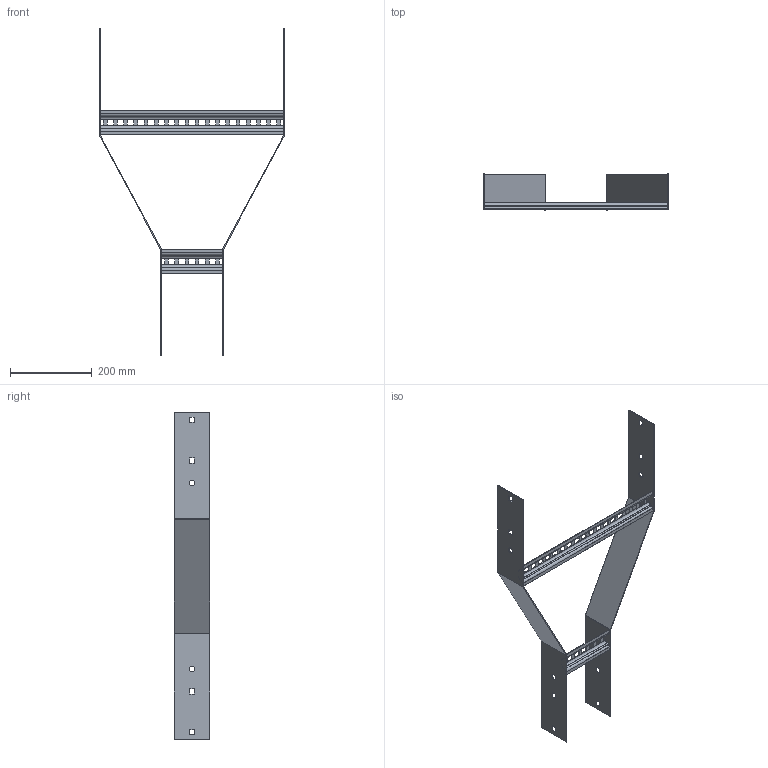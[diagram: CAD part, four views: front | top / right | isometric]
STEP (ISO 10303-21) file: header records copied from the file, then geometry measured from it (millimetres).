
FILE_DESCRIPTION (( 'STEP AP203' ), '1' );
FILE_NAME ('N2 SR450150.STEP', '2024-08-27T22:23:22', ( '' ), ( '' ), 'SwSTEP 2.0', 'SolidWorks 2023', '' );
FILE_SCHEMA (( 'CONFIG_CONTROL_DESIGN' ));
Length unit declared in the file: millimetre
Products named in the file (4): N2 SR450150; N2 Reducer side plate_SR150x450; Ladder Rung_Ladder Rung -  150mm; Ladder Rung_Ladder Rung -  450mm
Assembly tree (4 placements, depth 2):
  N2 SR450150
    N2 Reducer side plate_SR150x450  x2
    Ladder Rung_Ladder Rung -  150mm
    Ladder Rung_Ladder Rung -  450mm
Bounding box: 454 x 87 x 800 mm (x, y, z)
Volume: 351977 mm3; surface area: 381040.8 mm2
Topology: 4 solids, 4 shells, 264 faces, 672 edges, 416 vertices
Faces by surface type: plane 232, cylinder 32
Entity records: 7078 total; most frequent: CARTESIAN_POINT 1149, ORIENTED_EDGE 1136, DIRECTION 1074, EDGE_CURVE 568, VECTOR 520, LINE 520, VERTEX_POINT 352, EDGE_LOOP 278
